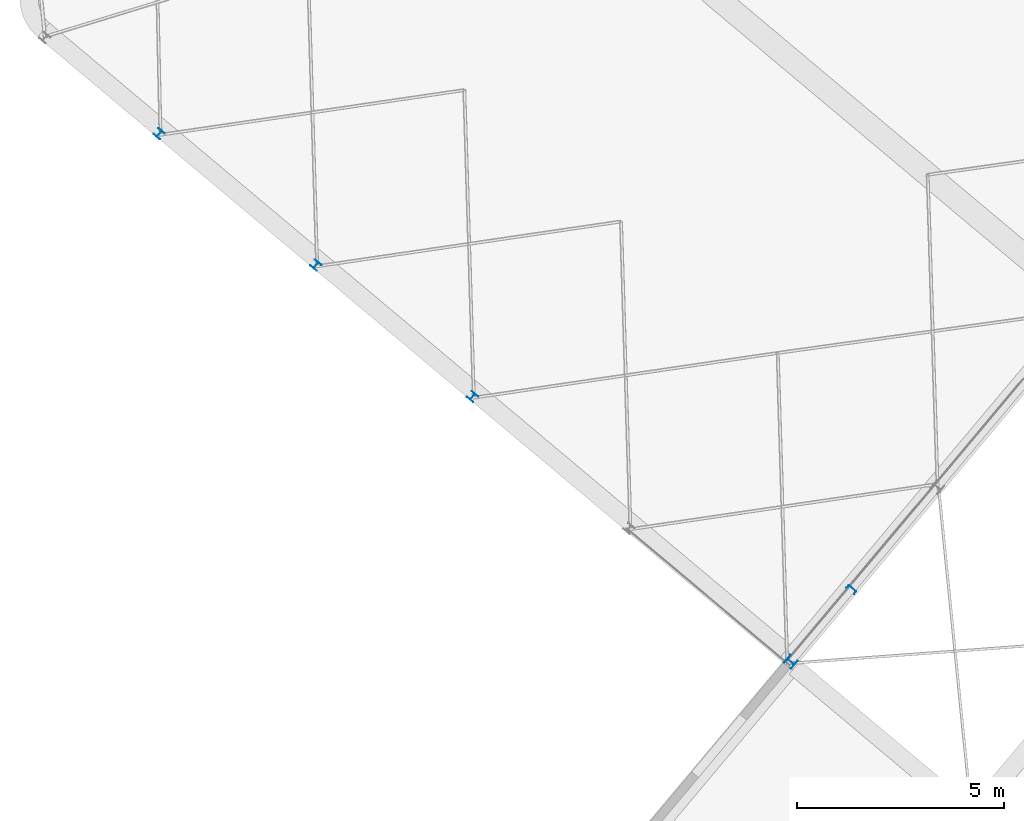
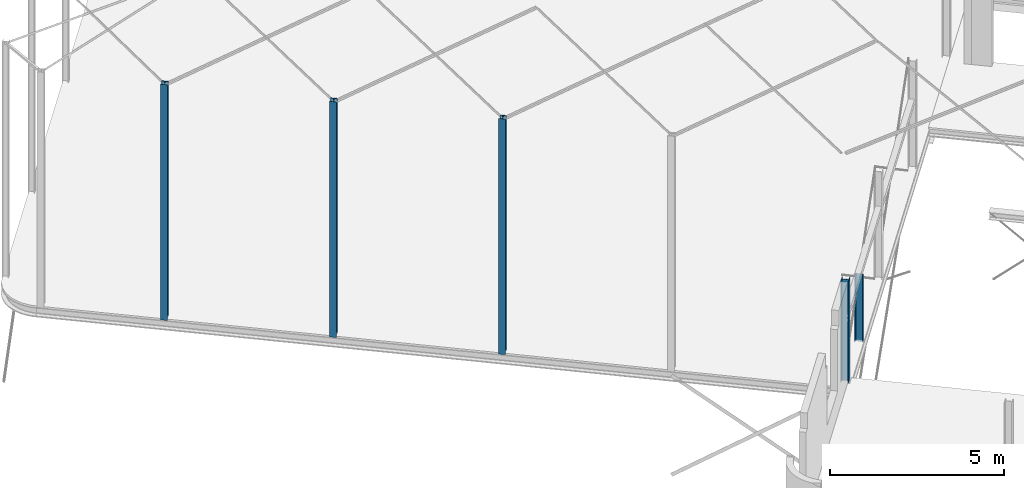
# One storey, part 2 of 25: 5 columns.
"""IFC2X3 building model written with IfcOpenShell, lengths in millimetres."""

from ifc_helpers import new_model, entity, si_unit, converted_unit, derived_unit, direction, frame, frame_2d, origin, origin_2d_with_axis, place, context, subcontext, project, spatial, polyline, circle_curve, parameter, trimmed, segment, composite_curve, i_section, outline, extrude, source, transform, mapped, material, type_object, type_shapes, element, save


model = new_model("IFC2X3")

# Units and contexts
model_context = context("Model", 3, precision=0.01, world=origin(), true_north=direction((6.123031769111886e-17, 1.0)))
body_context = subcontext(model_context, "Body", "Model", "MODEL_VIEW")
ifc_project = project(units=[si_unit("LENGTHUNIT", "METRE", prefix="MILLI"), si_unit("AREAUNIT", "SQUARE_METRE"), si_unit("VOLUMEUNIT", "CUBIC_METRE"), derived_unit("MASSDENSITYUNIT", [(si_unit("MASSUNIT", "GRAM", prefix="KILO"), 1), (si_unit("LENGTHUNIT", "METRE"), -3)]), si_unit("MASSUNIT", "GRAM", prefix="KILO"), converted_unit("PLANEANGLEUNIT", "DEGREE", entity("IfcPlaneAngleMeasure", 0.017453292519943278), si_unit("PLANEANGLEUNIT", "RADIAN"), dimensions=[0, 0, 0, 0, 0, 0, 0])], contexts=[model_context])

# Site, building, storey
site_placement = place(None, origin())
site = spatial("IfcSite", under=ifc_project, at=site_placement, Name="Default", CompositionType="ELEMENT")
building_placement = place(site_placement, origin())
building = spatial("IfcBuilding", under=site, at=building_placement, Name="AT constructie", CompositionType="ELEMENT")
storey_placement = place(building_placement, frame((0.0, 0.0, 3864.0)))
storey = spatial("IfcBuildingStorey", under=building, at=storey_placement, Name="01 eerste verdieping", CompositionType="ELEMENT", Elevation=3864.0)

# Columns
ifc_material = material(Name="h2_staal_S355")
column_type_1 = type_object("IfcColumnType", Name="kolom_gen_HEA240", PredefinedType="COLUMN", material=ifc_material)
shared_shape_1 = source(origin(), body_context, "Body", "SweptSolid", [
    extrude(i_section(OverallWidth=240.0000000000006, OverallDepth=229.9999999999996, WebThickness=7.500000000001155, FlangeThickness=12.000000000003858, FilletRadius=21.0, at=frame_2d((1.3926637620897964e-12, -1.6555645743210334e-12), x_axis=(1.0, 0.0))), frame((25163.958090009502, 20291.969762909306, 3814.0), z_axis=(0.0, 0.0, 1.0), x_axis=(-0.6427876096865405, -0.7660444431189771, 0.0)), (0.0, 0.0, 1.0), 3554.000000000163),
])
type_shapes(column_type_1, [shared_shape_1])
column_1_placement = place(storey_placement, frame((0.0, 0.0, -3864.0)))
element("IfcColumn", 1, at=column_1_placement, inside=storey, type_object=column_type_1, material=ifc_material, Name="NLRS_28_SC_TLB_kolom HEA_gen_AT:kolom_gen_HEA240", ObjectType="NLRS_28_SC_TLB_kolom HEA_gen_AT:kolom_gen_HEA240", context=body_context, shape_type="MappedRepresentation", body=[
    mapped(shared_shape_1, transform((0.0, 0.0, 0.0), scale=1.0)),
])
column_type_2 = type_object("IfcColumnType", Name="kolom_gen_HEA200", PredefinedType="COLUMN", material=ifc_material)
shared_shape_2 = source(origin(), body_context, "Body", "SweptSolid", [
    extrude(i_section(OverallWidth=199.99999999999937, OverallDepth=190.00000000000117, WebThickness=6.499999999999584, FlangeThickness=9.999999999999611, FilletRadius=18.0, at=origin_2d_with_axis()), frame((9939.308549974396, 33021.2783216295, 3603.0), z_axis=(0.0, 0.0, 1.0), x_axis=(0.7660444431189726, -0.6427876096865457, 0.0)), (0.0, 0.0, 1.0), 8259.999999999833),
])
type_shapes(column_type_2, [shared_shape_2])
column_2_placement = place(storey_placement, frame((0.0, 0.0, -3864.0)))
element("IfcColumn", 2, at=column_2_placement, inside=storey, type_object=column_type_2, material=ifc_material, Name="NLRS_28_SC_TLB_kolom HEA_gen_AT:kolom_gen_HEA200", ObjectType="NLRS_28_SC_TLB_kolom HEA_gen_AT:kolom_gen_HEA200", context=body_context, shape_type="MappedRepresentation", body=[
    mapped(shared_shape_2, transform((0.0, 0.0, 0.0), scale=1.0)),
])
column_type_3 = type_object("IfcColumnType", Name="kolom_gen_HEA200", PredefinedType="COLUMN", material=ifc_material)
shared_shape_3 = source(origin(), body_context, "Body", "SweptSolid", [
    extrude(i_section(OverallWidth=199.99999999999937, OverallDepth=190.00000000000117, WebThickness=6.499999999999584, FlangeThickness=9.999999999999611, FilletRadius=18.0, at=origin_2d_with_axis()), frame((17492.50675912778, 26683.39249012, 3603.0), z_axis=(0.0, 0.0, 1.0), x_axis=(0.7660444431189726, -0.6427876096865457, 0.0)), (0.0, 0.0, 1.0), 8259.999999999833),
])
type_shapes(column_type_3, [shared_shape_3])
column_3_placement = place(storey_placement, frame((0.0, 0.0, -3864.0)))
element("IfcColumn", 3, at=column_3_placement, inside=storey, type_object=column_type_3, material=ifc_material, Name="NLRS_28_SC_TLB_kolom HEA_gen_AT:kolom_gen_HEA200", ObjectType="NLRS_28_SC_TLB_kolom HEA_gen_AT:kolom_gen_HEA200", context=body_context, shape_type="MappedRepresentation", body=[
    mapped(shared_shape_3, transform((0.0, 0.0, 0.0), scale=1.0)),
])
column_type_4 = type_object("IfcColumnType", Name="kolom_gen_HEA200", PredefinedType="COLUMN", material=ifc_material)
shared_shape_4 = source(origin(), body_context, "Body", "SweptSolid", [
    extrude(i_section(OverallWidth=199.99999999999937, OverallDepth=190.00000000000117, WebThickness=6.499999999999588, FlangeThickness=9.999999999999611, FilletRadius=18.0, at=frame_2d((-5.329070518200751e-13, -6.103562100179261e-12), x_axis=(1.0, 0.0))), frame((13715.90765455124, 29852.335405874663, 3603.0), z_axis=(0.0, 0.0, 1.0), x_axis=(0.7660444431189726, -0.6427876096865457, 0.0)), (0.0, 0.0, 1.0), 8259.999999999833),
])
type_shapes(column_type_4, [shared_shape_4])
column_4_placement = place(storey_placement, frame((0.0, 0.0, -3864.0)))
element("IfcColumn", 4, at=column_4_placement, inside=storey, type_object=column_type_4, material=ifc_material, Name="NLRS_28_SC_TLB_kolom HEA_gen_AT:kolom_gen_HEA200", ObjectType="NLRS_28_SC_TLB_kolom HEA_gen_AT:kolom_gen_HEA200", context=body_context, shape_type="MappedRepresentation", body=[
    mapped(shared_shape_4, transform((0.0, 0.0, 0.0), scale=1.0)),
])
column_type_5 = type_object("IfcColumnType", Name="kolom_gen_UNP240", PredefinedType="COLUMN", material=ifc_material)
shared_shape_5 = source(origin(), body_context, "Body", "SweptSolid", [
    extrude(outline(composite_curve([segment(polyline([(-39.10000000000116, -120.0), (45.90000000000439, -120.0)]), True, "CONTINUOUS"), segment(trimmed(circle_curve(frame_2d((39.40000000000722, -120.0), x_axis=(1.0, 0.0)), 6.500000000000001), [parameter(0.0)], [parameter(90.0000000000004)], True, "PARAMETER"), True, "CONTINUOUS"), segment(polyline([(39.400000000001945, -113.50000000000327), (-16.599999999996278, -105.0)]), True, "CONTINUOUS"), segment(trimmed(circle_curve(frame_2d((-16.599999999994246, -92.0), x_axis=(1.0, 0.0)), 13.000000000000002), [parameter(180.00000000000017)], [parameter(270.0000000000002)], True, "PARAMETER"), False, "CONTINUOUS"), segment(polyline([(-29.599999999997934, -92.0), (-29.599999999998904, 92.0)]), True, "CONTINUOUS"), segment(trimmed(circle_curve(frame_2d((-16.599999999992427, 92.0), x_axis=(1.0, 0.0)), 13.000000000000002), [parameter(89.99999999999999)], [parameter(180.0000000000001)], True, "PARAMETER"), False, "CONTINUOUS"), segment(polyline([(-16.599999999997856, 105.0), (39.400000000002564, 113.49999999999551)]), True, "CONTINUOUS"), segment(trimmed(circle_curve(frame_2d((39.40000000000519, 120.0), x_axis=(1.0, 0.0)), 6.500000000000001), [parameter(270.0000000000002)], [parameter(3.053332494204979e-13)], True, "PARAMETER"), True, "CONTINUOUS"), segment(polyline([(45.900000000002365, 120.0), (-39.09999999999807, 120.0)]), True, "CONTINUOUS"), segment(polyline([(-39.09999999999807, 120.0), (-39.10000000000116, -120.0)]), True, "CONTINUOUS")], self_intersect=False)), frame((26628.340108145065, 22037.152293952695, 3593.0), z_axis=(0.0, 0.0, 1.0), x_axis=(-0.6427876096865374, -0.7660444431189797, 0.0)), (0.0, 0.0, 1.0), 2374.9668229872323),
])
type_shapes(column_type_5, [shared_shape_5])
column_5_placement = place(storey_placement, frame((0.0, 0.0, -3864.0)))
element("IfcColumn", 5, at=column_5_placement, inside=storey, type_object=column_type_5, material=ifc_material, Name="NLRS_28_SC_TLB_kolom UNP_gen_AT:kolom_gen_UNP240", ObjectType="NLRS_28_SC_TLB_kolom UNP_gen_AT:kolom_gen_UNP240", context=body_context, shape_type="MappedRepresentation", body=[
    mapped(shared_shape_5, transform((0.0, 0.0, 0.0), scale=1.0)),
])

save(model, "model.ifc")
